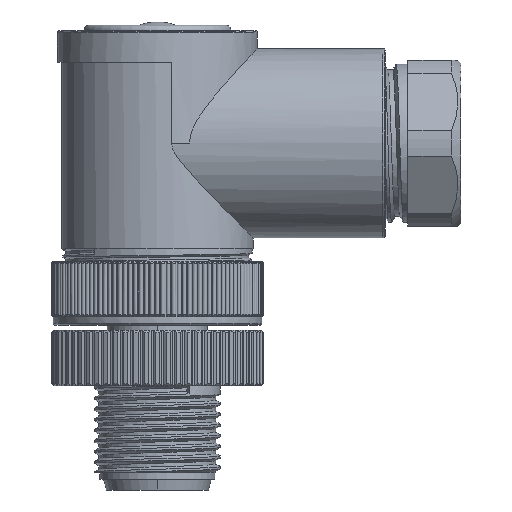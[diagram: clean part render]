
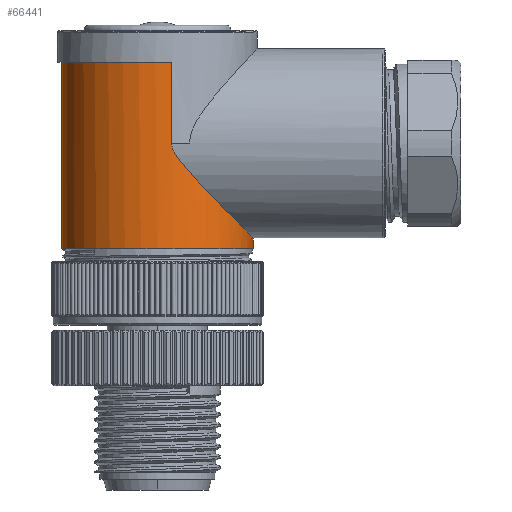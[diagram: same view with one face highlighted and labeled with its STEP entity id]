
A CAD part, front view. The second image highlights one B-rep face of the part: STEP entity #66441.
In plain terms, the highlighted cylindrical face has radius 9 mm (diameter 18 mm), a partial arc.
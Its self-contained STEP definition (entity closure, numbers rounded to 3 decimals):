
#8657=CARTESIAN_POINT('',(0.,0.,5.));
#8658=DIRECTION('',(0.,0.,-1.));
#8659=DIRECTION('',(1.,0.,0.));
#8660=AXIS2_PLACEMENT_3D('',#8657,#8658,#8659);
#8730=CARTESIAN_POINT('',(9.,0.,6.));
#8731=CARTESIAN_POINT('',(9.,-0.089,
6.));
#8732=CARTESIAN_POINT('',(8.997,-0.267,
6.003));
#8733=CARTESIAN_POINT('',(8.985,-0.534,
6.015));
#8734=CARTESIAN_POINT('',(8.966,-0.801,
6.035));
#8735=CARTESIAN_POINT('',(8.938,-1.068,6.063));
#8736=CARTESIAN_POINT('',(8.902,-1.335,6.099));
#8737=CARTESIAN_POINT('',(8.858,-1.603,6.144));
#8738=CARTESIAN_POINT('',(8.805,-1.871,6.197));
#8739=CARTESIAN_POINT('',(8.744,-2.139,6.259));
#8740=CARTESIAN_POINT('',(8.674,-2.407,6.33));
#8741=CARTESIAN_POINT('',(8.595,-2.676,6.41));
#8742=CARTESIAN_POINT('',(8.506,-2.944,6.5));
#8743=CARTESIAN_POINT('',(8.409,-3.213,6.599));
#8744=CARTESIAN_POINT('',(8.301,-3.482,6.708));
#8745=CARTESIAN_POINT('',(8.183,-3.75,6.827));
#8746=CARTESIAN_POINT('',(8.055,-4.018,6.957));
#8747=CARTESIAN_POINT('',(7.917,-4.285,7.097));
#8748=CARTESIAN_POINT('',(7.767,-4.551,7.249));
#8749=CARTESIAN_POINT('',(7.606,-4.815,7.413));
#8750=CARTESIAN_POINT('',(7.433,-5.078,7.588));
#8751=CARTESIAN_POINT('',(7.248,-5.338,7.776));
#8752=CARTESIAN_POINT('',(7.052,-5.596,7.977));
#8753=CARTESIAN_POINT('',(6.842,-5.85,8.19));
#8754=CARTESIAN_POINT('',(6.62,-6.1,8.416));
#8755=CARTESIAN_POINT('',(6.386,-6.345,8.656));
#8756=CARTESIAN_POINT('',(6.138,-6.585,8.909));
#8757=CARTESIAN_POINT('',(5.878,-6.818,9.176));
#8758=CARTESIAN_POINT('',(5.605,-7.045,9.457));
#8759=CARTESIAN_POINT('',(5.319,-7.263,9.751));
#8760=CARTESIAN_POINT('',(5.022,-7.472,10.06));
#8761=CARTESIAN_POINT('',(4.712,-7.671,10.381));
#8762=CARTESIAN_POINT('',(4.393,-7.858,10.716));
#8763=CARTESIAN_POINT('',(4.063,-8.034,11.063));
#8764=CARTESIAN_POINT('',(3.727,-8.195,11.42));
#8765=CARTESIAN_POINT('',(3.384,-8.342,11.791));
#8766=CARTESIAN_POINT('',(3.048,-8.471,12.16));
#8767=CARTESIAN_POINT('',(2.758,-8.568,12.487));
#8768=CARTESIAN_POINT('',(2.508,-8.644,12.776));
#8769=CARTESIAN_POINT('',(2.292,-8.704,13.037));
#8770=CARTESIAN_POINT('',(2.107,-8.751,13.27));
#8771=CARTESIAN_POINT('',(1.949,-8.787,13.481));
#8772=CARTESIAN_POINT('',(1.816,-8.815,13.67));
#8773=CARTESIAN_POINT('',(1.705,-8.837,13.84));
#8774=CARTESIAN_POINT('',(1.615,-8.854,13.993));
#8775=CARTESIAN_POINT('',(1.542,-8.867,14.13));
#8776=CARTESIAN_POINT('',(1.485,-8.877,14.252));
#8777=CARTESIAN_POINT('',(1.441,-8.884,14.362));
#8778=CARTESIAN_POINT('',(1.406,-8.889,14.464));
#8779=CARTESIAN_POINT('',(1.38,-8.894,14.558));
#8780=CARTESIAN_POINT('',(1.361,-8.897,14.647));
#8781=CARTESIAN_POINT('',(1.347,-8.899,14.733));
#8782=CARTESIAN_POINT('',(1.34,-8.9,14.817));
#8783=CARTESIAN_POINT('',(1.338,-8.9,14.872));
#8784=CARTESIAN_POINT('',(1.338,-8.9,14.9));
#27129=DIRECTION('',(0.,0.,-1.));
#27130=VECTOR('',#27129,1.);
#27131=CARTESIAN_POINT('',(9.,0.,6.));
#27132=LINE('',#27131,#27130);
#27133=DIRECTION('',(0.,0.,-1.));
#27134=VECTOR('',#27133,17.5);
#27135=CARTESIAN_POINT('',(-9.,0.,22.5));
#27136=LINE('',#27135,#27134);
#27137=DIRECTION('',(0.,0.,1.));
#27138=VECTOR('',#27137,7.581);
#27139=CARTESIAN_POINT('',(1.338,-8.9,
14.919));
#27140=LINE('',#27139,#27138);
#27141=CARTESIAN_POINT('',(1.338,-8.9,
14.9));
#27142=CARTESIAN_POINT('',(1.338,-8.9,
14.906));
#27143=CARTESIAN_POINT('',(1.338,-8.9,
14.913));
#27144=CARTESIAN_POINT('',(1.338,-8.9,
14.919));
#27150=CARTESIAN_POINT('',(0.,0.,22.5));
#27151=DIRECTION('',(0.,0.,1.));
#27152=DIRECTION('',(-1.,0.,0.));
#27153=AXIS2_PLACEMENT_3D('',#27150,#27151,#27152);
#40934=CARTESIAN_POINT('',(1.338,-8.9,22.5));
#40936=VERTEX_POINT('',#40934);
#40939=CARTESIAN_POINT('',(1.338,-8.9,
14.9));
#40941=VERTEX_POINT('',#40939);
#41182=CARTESIAN_POINT('',(9.,0.,6.));
#41184=VERTEX_POINT('',#41182);
#41209=CARTESIAN_POINT('',(-9.,0.,22.5));
#41210=CARTESIAN_POINT('',(-9.,0.,5.));
#41211=VERTEX_POINT('',#41209);
#41212=VERTEX_POINT('',#41210);
#41213=CARTESIAN_POINT('',(9.,0.,5.));
#41214=VERTEX_POINT('',#41213);
#41217=CARTESIAN_POINT('',(1.338,-8.9,
14.919));
#41218=VERTEX_POINT('',#41217);
#66424=CARTESIAN_POINT('',(0.,0.,4.5));
#66425=DIRECTION('',(0.,0.,-1.));
#66426=DIRECTION('',(-1.,0.,0.));
#66427=AXIS2_PLACEMENT_3D('',#66424,#66425,#66426);
#66428=CYLINDRICAL_SURFACE('',#66427,9.);
#66429=ORIENTED_EDGE('',*,*,#51703,.F.);
#66430=ORIENTED_EDGE('',*,*,#51588,.T.);
#66431=ORIENTED_EDGE('',*,*,#51561,.T.);
#66432=ORIENTED_EDGE('',*,*,#51585,.F.);
#66434=ORIENTED_EDGE('',*,*,#66433,.T.);
#66436=ORIENTED_EDGE('',*,*,#66435,.F.);
#66438=ORIENTED_EDGE('',*,*,#66437,.F.);
#66439=EDGE_LOOP('',(#66429,#66430,#66431,#66432,#66434,#66436,#66438));
#66440=FACE_OUTER_BOUND('',#66439,.F.);
#66441=ADVANCED_FACE('',(#66440),#66428,.T.);
#8661=CIRCLE('',#8660,9.);
#8785=B_SPLINE_CURVE_WITH_KNOTS('',3,(#8730,#8731,#8732,#8733,#8734,#8735,#8736,
#8737,#8738,#8739,#8740,#8741,#8742,#8743,#8744,#8745,#8746,#8747,#8748,#8749,
#8750,#8751,#8752,#8753,#8754,#8755,#8756,#8757,#8758,#8759,#8760,#8761,#8762,
#8763,#8764,#8765,#8766,#8767,#8768,#8769,#8770,#8771,#8772,#8773,#8774,#8775,
#8776,#8777,#8778,#8779,#8780,#8781,#8782,#8783,#8784),.UNSPECIFIED.,.F.,.F.,(4,
1,1,1,1,1,1,1,1,1,1,1,1,1,1,1,1,1,1,1,1,1,1,1,1,1,1,1,1,1,1,1,1,1,1,1,1,1,1,1,1,
1,1,1,1,1,1,1,1,1,1,1,4),(0.,0.019,0.038,
0.058,0.077,0.096,0.115,
0.135,0.154,0.173,0.192,
0.212,0.231,0.25,0.269,0.288,
0.308,0.327,0.346,0.365,
0.385,0.404,0.423,0.442,
0.462,0.481,0.5,0.519,0.538,
0.558,0.577,0.596,0.615,
0.635,0.654,0.673,0.692,
0.712,0.731,0.75,0.769,0.788,
0.808,0.827,0.846,0.865,
0.885,0.904,0.923,0.942,
0.962,0.981,1.),.UNSPECIFIED.);
#27145=B_SPLINE_CURVE_WITH_KNOTS('',3,(#27141,#27142,#27143,#27144),
.UNSPECIFIED.,.F.,.F.,(4,4),(0.,1.),.UNSPECIFIED.);
#27154=CIRCLE('',#27153,9.);
#51561=EDGE_CURVE('',#41214,#41212,#8661,.T.);
#51585=EDGE_CURVE('',#41211,#41212,#27136,.T.);
#51588=EDGE_CURVE('',#41184,#41214,#27132,.T.);
#51703=EDGE_CURVE('',#41184,#40941,#8785,.T.);
#66433=EDGE_CURVE('',#41211,#40936,#27154,.T.);
#66435=EDGE_CURVE('',#41218,#40936,#27140,.T.);
#66437=EDGE_CURVE('',#40941,#41218,#27145,.T.);
